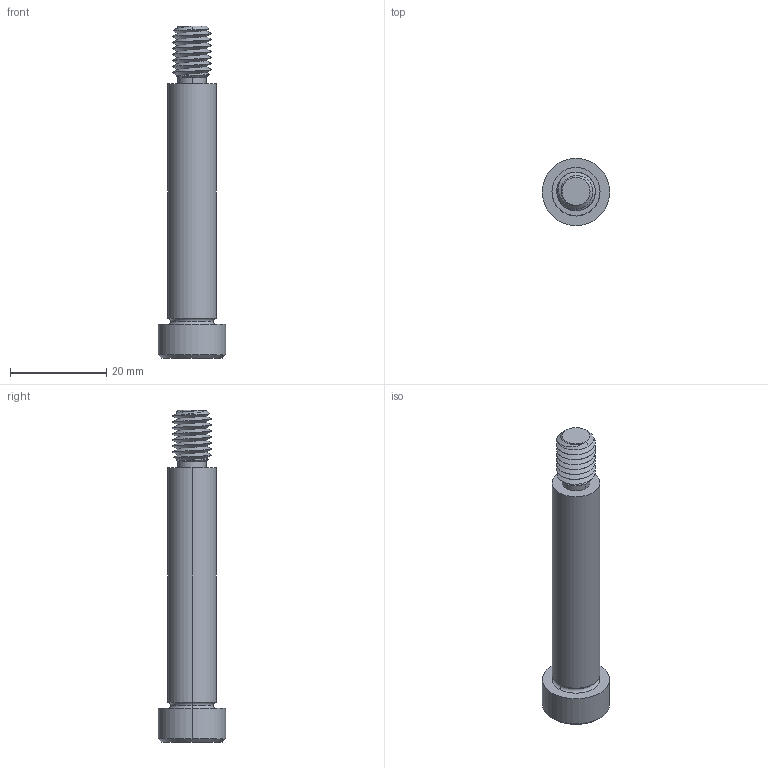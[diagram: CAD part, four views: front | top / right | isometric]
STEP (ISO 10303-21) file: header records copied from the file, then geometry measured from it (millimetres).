
FILE_DESCRIPTION (( 'STEP AP203' ), '1' );
FILE_NAME ('P0130.100-050-B8.step', '2021-11-09T21:56:11', ( '' ), ( '' ), 'SwSTEP 2.0', 'SolidWorks 2019', '' );
FILE_SCHEMA (( 'CONFIG_CONTROL_DESIGN' ));
Length unit declared in the file: millimetre
Products named in the file (1): P0130.100-050-B8
Bounding box: 14 x 14 x 69 mm (x, y, z)
Volume: 5294.4 mm3; surface area: 2748.7 mm2
Topology: 1 solids, 1 shells, 58 faces, 136 edges, 81 vertices
Faces by surface type: cylinder 21, plane 16, cone 15, torus 4, bspline 2
Entity records: 4214 total; most frequent: CARTESIAN_POINT 2911, ORIENTED_EDGE 268, DIRECTION 241, EDGE_CURVE 134, AXIS2_PLACEMENT_3D 97, VERTEX_POINT 81, EDGE_LOOP 61, ADVANCED_FACE 58
